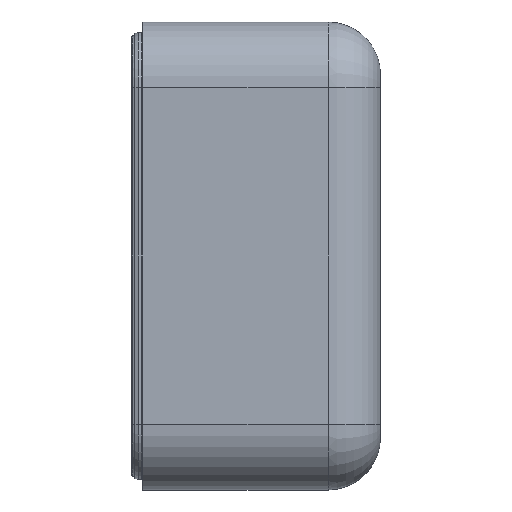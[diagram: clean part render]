
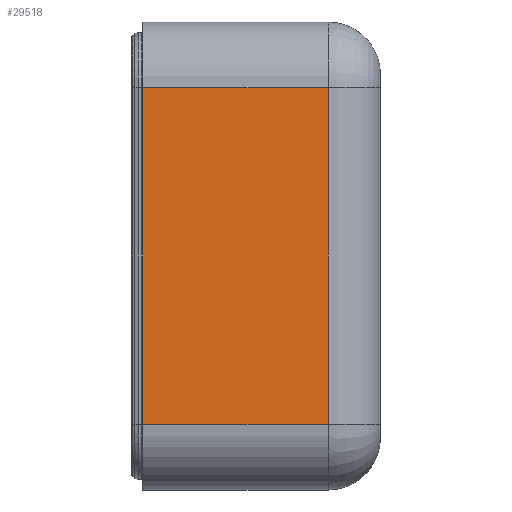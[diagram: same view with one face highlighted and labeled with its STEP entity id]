
A CAD part, left-side view. The second image highlights one B-rep face of the part: STEP entity #29518.
In plain terms, the highlighted planar face has unit normal (-1, 0, 0).
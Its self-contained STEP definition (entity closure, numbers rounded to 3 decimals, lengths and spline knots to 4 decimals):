
#291 = CARTESIAN_POINT ( 'NONE',  ( -5.4752, -3.5448, -3.22 ) ) ;
#847 = VERTEX_POINT ( 'NONE', #5720 ) ;
#1314 = EDGE_CURVE ( 'NONE', #1967, #847, #19060, .T. ) ;
#1967 = VERTEX_POINT ( 'NONE', #50293 ) ;
#4454 = VECTOR ( 'NONE', #18475, 39.3701 ) ;
#5720 = CARTESIAN_POINT ( 'NONE',  ( -5.4752, -3.5448, 3.22 ) ) ;
#6504 = VECTOR ( 'NONE', #31592, 39.3701 ) ;
#6572 = DIRECTION ( 'NONE',  ( 0., 1., 0. ) ) ;
#9138 = ORIENTED_EDGE ( 'NONE', *, *, #1314, .T. ) ;
#10227 = ORIENTED_EDGE ( 'NONE', *, *, #19169, .F. ) ;
#13833 = DIRECTION ( 'NONE',  ( 0., 1., 0. ) ) ;
#18312 = LINE ( 'NONE', #36480, #55663 ) ;
#18475 = DIRECTION ( 'NONE',  ( 0., 0., 1. ) ) ;
#19060 = LINE ( 'NONE', #291, #4454 ) ;
#19169 = EDGE_CURVE ( 'NONE', #49795, #30684, #26530, .T. ) ;
#20669 = CARTESIAN_POINT ( 'NONE',  ( -5.4752, 0., 3.22 ) ) ;
#22173 = EDGE_LOOP ( 'NONE', ( #46920, #9138, #37130, #10227 ) ) ;
#23653 = FACE_OUTER_BOUND ( 'NONE', #22173, .T. ) ;
#24734 = LINE ( 'NONE', #47994, #58411 ) ;
#26530 = LINE ( 'NONE', #27399, #6504 ) ;
#27399 = CARTESIAN_POINT ( 'NONE',  ( -5.4752, 0., -3.22 ) ) ;
#28681 = CARTESIAN_POINT ( 'NONE',  ( -5.4752, 0., -3.22 ) ) ;
#29518 = ADVANCED_FACE ( 'NONE', ( #23653 ), #32596, .T. ) ;
#30684 = VERTEX_POINT ( 'NONE', #20669 ) ;
#31592 = DIRECTION ( 'NONE',  ( 0., 0., 1. ) ) ;
#32596 = PLANE ( 'NONE',  #46567 ) ;
#36475 = DIRECTION ( 'NONE',  ( -1., 0., 0. ) ) ;
#36480 = CARTESIAN_POINT ( 'NONE',  ( -5.4752, -0.1, 3.22 ) ) ;
#37063 = CARTESIAN_POINT ( 'NONE',  ( -5.4752, -0.1, -3.22 ) ) ;
#37130 = ORIENTED_EDGE ( 'NONE', *, *, #47138, .T. ) ;
#45714 = DIRECTION ( 'NONE',  ( 0., 0., 1. ) ) ;
#46567 = AXIS2_PLACEMENT_3D ( 'NONE', #37063, #36475, #45714 ) ;
#46920 = ORIENTED_EDGE ( 'NONE', *, *, #54560, .F. ) ;
#47138 = EDGE_CURVE ( 'NONE', #847, #30684, #18312, .T. ) ;
#47994 = CARTESIAN_POINT ( 'NONE',  ( -5.4752, -0.1, -3.22 ) ) ;
#49795 = VERTEX_POINT ( 'NONE', #28681 ) ;
#50293 = CARTESIAN_POINT ( 'NONE',  ( -5.4752, -3.5448, -3.22 ) ) ;
#54560 = EDGE_CURVE ( 'NONE', #1967, #49795, #24734, .T. ) ;
#55663 = VECTOR ( 'NONE', #13833, 39.3701 ) ;
#58411 = VECTOR ( 'NONE', #6572, 39.3701 ) ;
